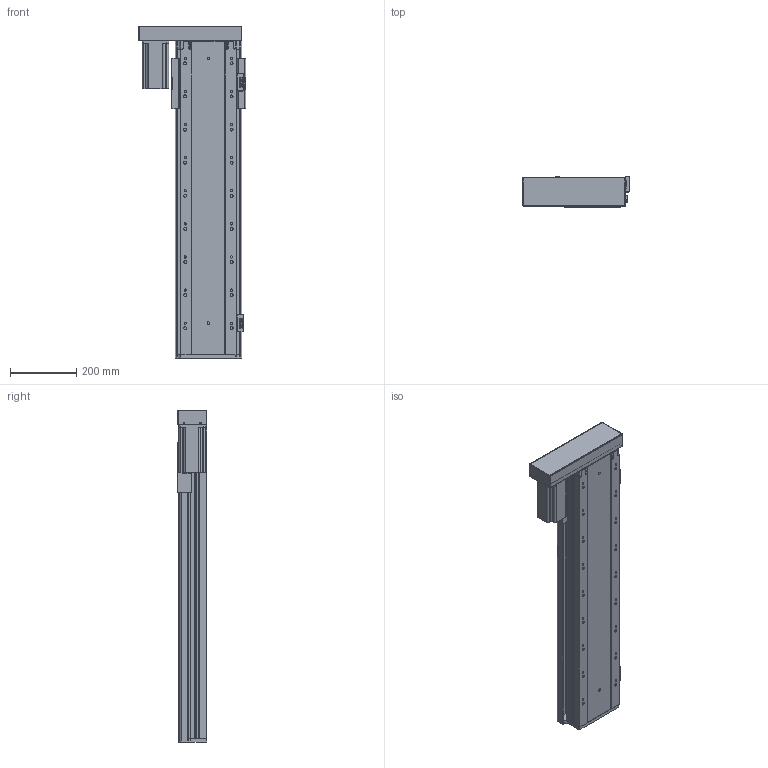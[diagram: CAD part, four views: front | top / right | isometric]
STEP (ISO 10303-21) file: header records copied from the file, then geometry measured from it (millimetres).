
FILE_DESCRIPTION (( 'STEP AP203' ), '1' );
FILE_NAME ('RY170FB-L2020-300-LK.SLDASM_700.step', '2021-02-23T03:02:42', ( '盈信电脑' ), ( '东莞市道滘镇水果街19号' ), 'SwSTEP 2.0', 'SolidWorks 2012', '' );
FILE_SCHEMA (( 'CONFIG_CONTROL_DESIGN' ));
Products named in the file (16): RY140直线电机感应器674光电安装座; RY140FB-674嫖萇覜茼え; RY140-674嫖萇耀輸; RY170FB-L2020-300-LK.SLDASM_700; RY170FB-酘衵殏萇儂欶750W; RY170FB-左右折电机安装板750W; 覜茼ん674; RY170FB-300蛌殏奻裔-LK_700; RY170FB-綴裔啣; RY170FB-铝滑块(25丝杆）; RY170FB-转折电机端支撑座(7002); 滅袉蝶18-10; 怢湛750W萇儂ㄗ80遺ㄘ; RY170FB-300蛌殏倰第菁釱-LK_700; 滅袉蝶18-28
Assembly tree (18 placements, depth 3):
  RY170FB-L2020-300-LK.SLDASM_700
    RY170FB-300蛌殏倰第菁釱-LK_700
    滅袉蝶18-28
    滅袉蝶18-10
    RY170FB-转折电机端支撑座(7002)
    怢湛750W萇儂ㄗ80遺ㄘ
    RY170FB-铝滑块(25丝杆）
    RY170FB-綴裔啣
    RY170FB-300蛌殏奻裔-LK_700
    RY140-674嫖萇耀輸
      覜茼ん674  x2
      RY140直线电机感应器674光电安装座
    RY140-674嫖萇耀輸
      覜茼ん674
      RY140直线电机感应器674光电安装座
    RY140FB-674嫖萇覜茼え
    RY170FB-左右折电机安装板750W
    RY170FB-酘衵殏萇儂欶750W
Bounding box: 323.95 x 90.5 x 1002.7 mm (x, y, z)
Volume: 6534316.6 mm3; surface area: 1880665.9 mm2
Topology: 16 solids, 16 shells, 1625 faces, 4654 edges, 2960 vertices
Faces by surface type: cylinder 867, plane 594, cone 156, bspline 8
Entity records: 52431 total; most frequent: CARTESIAN_POINT 12858, ORIENTED_EDGE 8048, DIRECTION 7742, EDGE_CURVE 4024, AXIS2_PLACEMENT_3D 2826, VERTEX_POINT 2640, VECTOR 2090, LINE 2090
